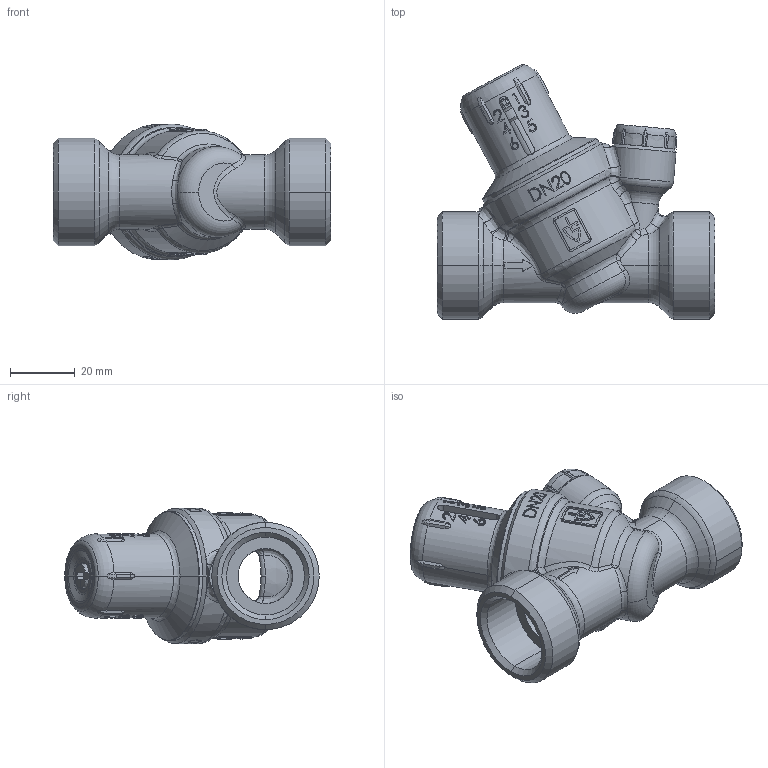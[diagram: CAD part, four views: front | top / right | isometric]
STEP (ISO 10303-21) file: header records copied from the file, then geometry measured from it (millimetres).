
FILE_DESCRIPTION (( 'STEP AP214' ), '1' );
FILE_NAME ('9160-20.STEP', '2023-01-18T12:13:15', ( '' ), ( '' ), 'SwSTEP 2.0', 'SolidWorks 2022', '' );
FILE_SCHEMA (( 'AUTOMOTIVE_DESIGN' ));
Length unit declared in the file: millimetre
Products named in the file (9): 91600200002; 91600200001; 9160-20; 91000150001; 91000150018; 90000150115; 00000004892; 91000150019_Feder gespannt; 91000150002
Assembly tree (8 placements, depth 3):
  9160-20
    91600200002
      91600200001
    90000150115
    00000004892
    91000150019_Feder gespannt
      91000150018
      91000150001
      91000150002
Bounding box: 86 x 78.75 x 42 mm (x, y, z)
Volume: 54742.3 mm3; surface area: 33044.2 mm2
Topology: 6 solids, 6 shells, 1066 faces, 2705 edges, 1701 vertices
Faces by surface type: bspline 351, plane 260, cylinder 185, cone 136, torus 122, sphere 12
Entity records: 73236 total; most frequent: CARTESIAN_POINT 50256, ORIENTED_EDGE 5402, DIRECTION 3735, EDGE_CURVE 2701, VERTEX_POINT 1699, AXIS2_PLACEMENT_3D 1541, B_SPLINE_CURVE_WITH_KNOTS 1182, EDGE_LOOP 1134
